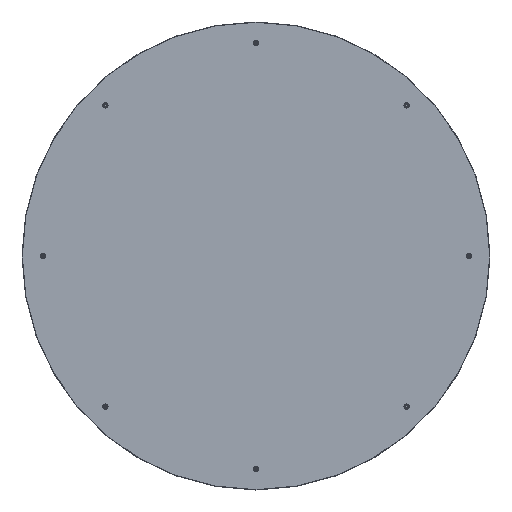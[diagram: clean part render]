
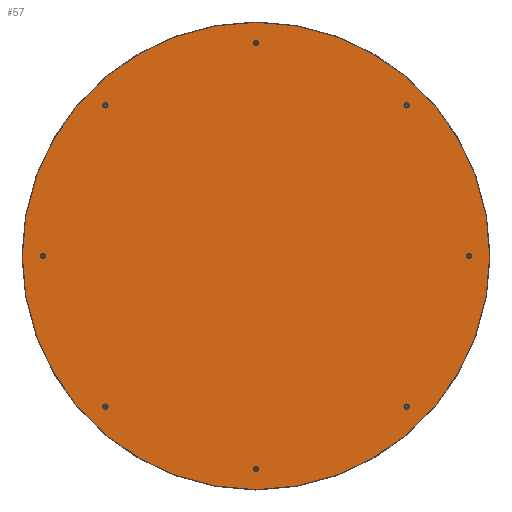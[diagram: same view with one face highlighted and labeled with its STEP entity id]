
A CAD part, top view. The second image highlights one B-rep face of the part: STEP entity #57.
In plain terms, the highlighted planar face has unit normal (0, 0, 1).
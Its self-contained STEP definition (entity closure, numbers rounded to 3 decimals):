
#1 = AXIS2_PLACEMENT_3D ( 'NONE', #1661, #276, #554 ) ;
#14 = DIRECTION ( 'NONE',  ( 0., 0., -1. ) ) ;
#16 = EDGE_LOOP ( 'NONE', ( #1162 ) ) ;
#25 = CARTESIAN_POINT ( 'NONE',  ( 690.913, 0., 55. ) ) ;
#30 = CIRCLE ( 'NONE', #244, 8.328 ) ;
#31 = EDGE_CURVE ( 'NONE', #1100, #1100, #1527, .T. ) ;
#45 = CARTESIAN_POINT ( 'NONE',  ( 490.989, 482.66, 55. ) ) ;
#49 = EDGE_LOOP ( 'NONE', ( #611 ) ) ;
#57 = ADVANCED_FACE ( 'NONE', ( #112, #1533, #811, #1360, #122, #262, #696, #1639, #1366 ), #1788, .T. ) ;
#68 = AXIS2_PLACEMENT_3D ( 'NONE', #1633, #1494, #377 ) ;
#112 = FACE_BOUND ( 'NONE', #1420, .T. ) ;
#122 = FACE_BOUND ( 'NONE', #16, .T. ) ;
#189 = VERTEX_POINT ( 'NONE', #1003 ) ;
#227 = DIRECTION ( 'NONE',  ( 1., 0., 0. ) ) ;
#244 = AXIS2_PLACEMENT_3D ( 'NONE', #1777, #531, #1370 ) ;
#260 = CARTESIAN_POINT ( 'NONE',  ( -674.257, 0., 55. ) ) ;
#262 = FACE_BOUND ( 'NONE', #1414, .T. ) ;
#276 = DIRECTION ( 'NONE',  ( 0., 0., 1. ) ) ;
#330 = CARTESIAN_POINT ( 'NONE',  ( -482.66, 482.66, 55. ) ) ;
#334 = CIRCLE ( 'NONE', #596, 8.328 ) ;
#335 = AXIS2_PLACEMENT_3D ( 'NONE', #1816, #1391, #1101 ) ;
#341 = CIRCLE ( 'NONE', #68, 8.328 ) ;
#377 = DIRECTION ( 'NONE',  ( 1., 0., 0. ) ) ;
#383 = EDGE_LOOP ( 'NONE', ( #1744 ) ) ;
#503 = DIRECTION ( 'NONE',  ( 0., 0., 1. ) ) ;
#531 = DIRECTION ( 'NONE',  ( 0., 0., -1. ) ) ;
#545 = CIRCLE ( 'NONE', #1178, 8.328 ) ;
#550 = EDGE_CURVE ( 'NONE', #1693, #1693, #30, .T. ) ;
#554 = DIRECTION ( 'NONE',  ( 1., 0., 0. ) ) ;
#576 = VERTEX_POINT ( 'NONE', #1557 ) ;
#578 = CIRCLE ( 'NONE', #975, 8.328 ) ;
#596 = AXIS2_PLACEMENT_3D ( 'NONE', #644, #1189, #227 ) ;
#611 = ORIENTED_EDGE ( 'NONE', *, *, #31, .T. ) ;
#644 = CARTESIAN_POINT ( 'NONE',  ( 482.66, 482.66, 55. ) ) ;
#663 = DIRECTION ( 'NONE',  ( 0., 0., -1. ) ) ;
#692 = EDGE_LOOP ( 'NONE', ( #897 ) ) ;
#696 = FACE_BOUND ( 'NONE', #692, .T. ) ;
#723 = DIRECTION ( 'NONE',  ( 1., 0., 0. ) ) ;
#729 = DIRECTION ( 'NONE',  ( 1., 0., 0. ) ) ;
#744 = EDGE_CURVE ( 'NONE', #189, #189, #1671, .T. ) ;
#779 = ORIENTED_EDGE ( 'NONE', *, *, #1524, .T. ) ;
#788 = EDGE_LOOP ( 'NONE', ( #1294 ) ) ;
#798 = CARTESIAN_POINT ( 'NONE',  ( 8.328, -682.585, 55. ) ) ;
#806 = CIRCLE ( 'NONE', #1036, 8.328 ) ;
#811 = FACE_BOUND ( 'NONE', #1241, .T. ) ;
#813 = EDGE_CURVE ( 'NONE', #1013, #1013, #334, .T. ) ;
#832 = DIRECTION ( 'NONE',  ( 1., 0., 0. ) ) ;
#852 = DIRECTION ( 'NONE',  ( 0., 0., -1. ) ) ;
#873 = EDGE_CURVE ( 'NONE', #576, #576, #545, .T. ) ;
#897 = ORIENTED_EDGE ( 'NONE', *, *, #813, .T. ) ;
#936 = ORIENTED_EDGE ( 'NONE', *, *, #873, .T. ) ;
#975 = AXIS2_PLACEMENT_3D ( 'NONE', #330, #852, #729 ) ;
#1003 = CARTESIAN_POINT ( 'NONE',  ( 749., 0., 55. ) ) ;
#1013 = VERTEX_POINT ( 'NONE', #45 ) ;
#1019 = DIRECTION ( 'NONE',  ( 1., 0., 0. ) ) ;
#1036 = AXIS2_PLACEMENT_3D ( 'NONE', #1309, #663, #1171 ) ;
#1077 = ORIENTED_EDGE ( 'NONE', *, *, #1709, .T. ) ;
#1087 = VERTEX_POINT ( 'NONE', #798 ) ;
#1100 = VERTEX_POINT ( 'NONE', #260 ) ;
#1101 = DIRECTION ( 'NONE',  ( 1., 0., 0. ) ) ;
#1125 = CARTESIAN_POINT ( 'NONE',  ( 0., 682.585, 55. ) ) ;
#1161 = DIRECTION ( 'NONE',  ( 0., 0., -1. ) ) ;
#1162 = ORIENTED_EDGE ( 'NONE', *, *, #1172, .T. ) ;
#1171 = DIRECTION ( 'NONE',  ( 1., 0., 0. ) ) ;
#1172 = EDGE_CURVE ( 'NONE', #1731, #1731, #341, .T. ) ;
#1178 = AXIS2_PLACEMENT_3D ( 'NONE', #1654, #14, #832 ) ;
#1180 = CARTESIAN_POINT ( 'NONE',  ( -474.332, 482.66, 55. ) ) ;
#1185 = AXIS2_PLACEMENT_3D ( 'NONE', #1125, #1161, #723 ) ;
#1189 = DIRECTION ( 'NONE',  ( 0., 0., -1. ) ) ;
#1241 = EDGE_LOOP ( 'NONE', ( #936 ) ) ;
#1270 = CIRCLE ( 'NONE', #1185, 8.328 ) ;
#1294 = ORIENTED_EDGE ( 'NONE', *, *, #744, .T. ) ;
#1295 = CARTESIAN_POINT ( 'NONE',  ( 0., 0., 55. ) ) ;
#1307 = VERTEX_POINT ( 'NONE', #1180 ) ;
#1309 = CARTESIAN_POINT ( 'NONE',  ( 0., -682.585, 55. ) ) ;
#1314 = CARTESIAN_POINT ( 'NONE',  ( 8.328, 682.585, 55. ) ) ;
#1360 = FACE_BOUND ( 'NONE', #1442, .T. ) ;
#1366 = FACE_BOUND ( 'NONE', #383, .T. ) ;
#1370 = DIRECTION ( 'NONE',  ( 1., 0., 0. ) ) ;
#1391 = DIRECTION ( 'NONE',  ( 0., 0., -1. ) ) ;
#1403 = ORIENTED_EDGE ( 'NONE', *, *, #550, .T. ) ;
#1414 = EDGE_LOOP ( 'NONE', ( #1403 ) ) ;
#1420 = EDGE_LOOP ( 'NONE', ( #779 ) ) ;
#1433 = AXIS2_PLACEMENT_3D ( 'NONE', #1295, #503, #1019 ) ;
#1437 = EDGE_CURVE ( 'NONE', #1586, #1586, #1270, .T. ) ;
#1442 = EDGE_LOOP ( 'NONE', ( #1077 ) ) ;
#1481 = CARTESIAN_POINT ( 'NONE',  ( 490.989, -482.66, 55. ) ) ;
#1494 = DIRECTION ( 'NONE',  ( 0., 0., -1. ) ) ;
#1524 = EDGE_CURVE ( 'NONE', #1307, #1307, #578, .T. ) ;
#1527 = CIRCLE ( 'NONE', #335, 8.328 ) ;
#1533 = FACE_BOUND ( 'NONE', #49, .T. ) ;
#1557 = CARTESIAN_POINT ( 'NONE',  ( -474.332, -482.66, 55. ) ) ;
#1586 = VERTEX_POINT ( 'NONE', #1314 ) ;
#1633 = CARTESIAN_POINT ( 'NONE',  ( 482.66, -482.66, 55. ) ) ;
#1639 = FACE_OUTER_BOUND ( 'NONE', #788, .T. ) ;
#1654 = CARTESIAN_POINT ( 'NONE',  ( -482.66, -482.66, 55. ) ) ;
#1661 = CARTESIAN_POINT ( 'NONE',  ( 0., 0., 55. ) ) ;
#1671 = CIRCLE ( 'NONE', #1433, 749. ) ;
#1693 = VERTEX_POINT ( 'NONE', #25 ) ;
#1709 = EDGE_CURVE ( 'NONE', #1087, #1087, #806, .T. ) ;
#1731 = VERTEX_POINT ( 'NONE', #1481 ) ;
#1744 = ORIENTED_EDGE ( 'NONE', *, *, #1437, .T. ) ;
#1777 = CARTESIAN_POINT ( 'NONE',  ( 682.585, 0., 55. ) ) ;
#1788 = PLANE ( 'NONE',  #1 ) ;
#1816 = CARTESIAN_POINT ( 'NONE',  ( -682.585, 0., 55. ) ) ;
